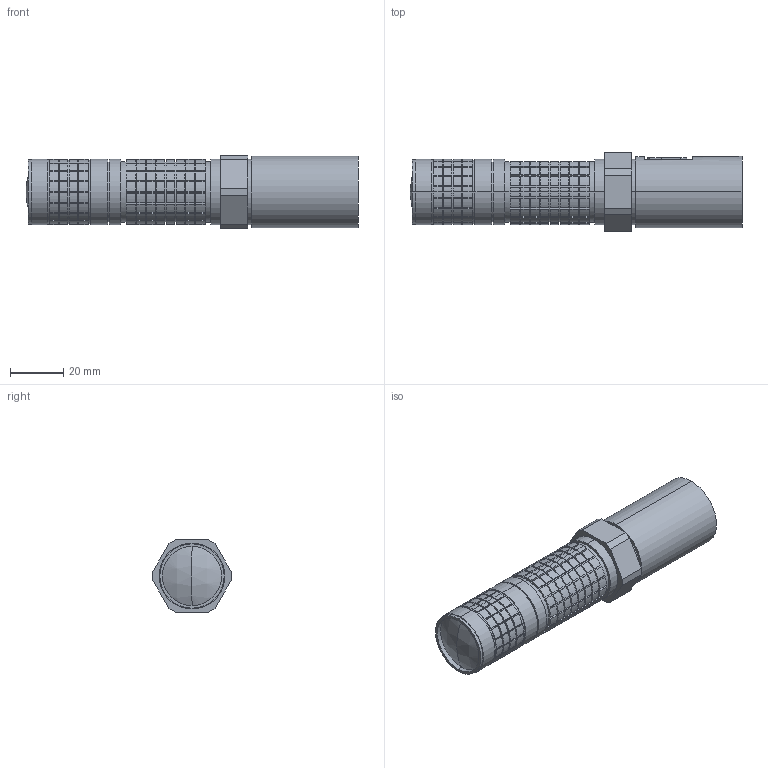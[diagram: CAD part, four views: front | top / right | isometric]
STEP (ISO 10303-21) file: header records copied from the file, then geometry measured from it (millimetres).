
FILE_DESCRIPTION (( 'STEP AP203' ), '1' );
FILE_NAME ('LEDPL-5-UV395-PK.STEP', '2026-01-20T22:49:19', ( '' ), ( '' ), 'SwSTEP 2.0', 'SolidWorks 2020', '' );
FILE_SCHEMA (( 'CONFIG_CONTROL_DESIGN' ));
Length unit declared in the file: inch
Products named in the file (1): LEDPL-5-UV395-PK
Bounding box: 124.74 x 29.76 x 27.18 mm (x, y, z)
Volume: 60273.2 mm3; surface area: 14024.1 mm2
Topology: 1 solids, 1 shells, 1112 faces, 2880 edges, 1918 vertices
Faces by surface type: plane 807, cylinder 301, sphere 2, cone 2
Entity records: 34236 total; most frequent: DIRECTION 6067, CARTESIAN_POINT 5911, ORIENTED_EDGE 5760, EDGE_CURVE 2880, AXIS2_PLACEMENT_3D 2074, LINE 1919, VECTOR 1919, VERTEX_POINT 1918
